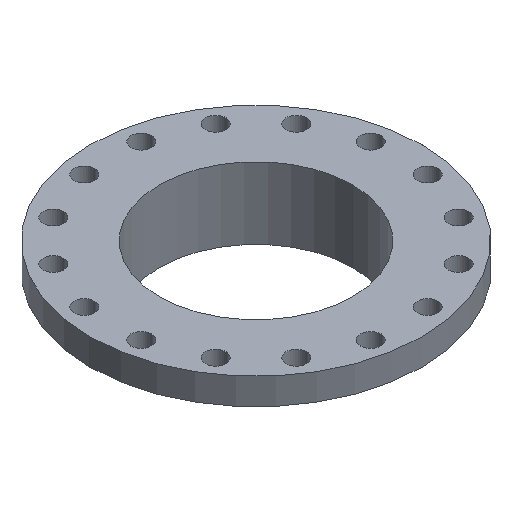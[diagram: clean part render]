
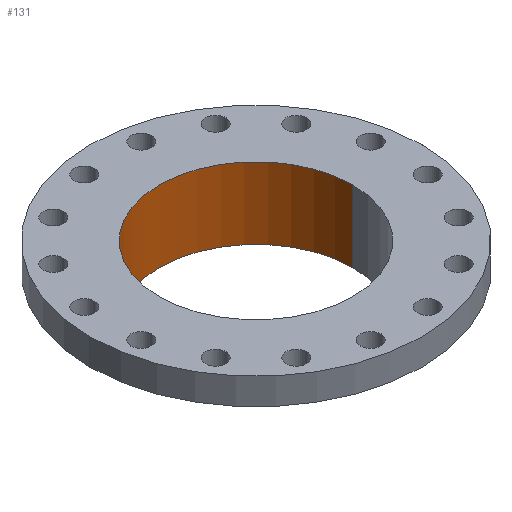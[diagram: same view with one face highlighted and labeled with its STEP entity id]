
A CAD part, isometric view. The second image highlights one B-rep face of the part: STEP entity #131.
In plain terms, the highlighted cylindrical face has radius 169 mm (diameter 338 mm), a partial arc.
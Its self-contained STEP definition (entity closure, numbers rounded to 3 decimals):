
#27 = CIRCLE ( 'NONE', #1195, 169. ) ;
#28 = EDGE_CURVE ( 'NONE', #1228, #1206, #1103, .T. ) ;
#53 = VECTOR ( 'NONE', #895, 1000. ) ;
#81 = VERTEX_POINT ( 'NONE', #1031 ) ;
#118 = EDGE_CURVE ( 'NONE', #1228, #1222, #27, .T. ) ;
#131 = ADVANCED_FACE ( 'NONE', ( #954 ), #953, .F. ) ;
#135 = CIRCLE ( 'NONE', #869, 169. ) ;
#180 = VECTOR ( 'NONE', #1100, 1000. ) ;
#201 = EDGE_CURVE ( 'NONE', #1222, #81, #903, .T. ) ;
#351 = CARTESIAN_POINT ( 'NONE',  ( -169., 0., 0. ) ) ;
#356 = CARTESIAN_POINT ( 'NONE',  ( 169., 0., 0. ) ) ;
#374 = CARTESIAN_POINT ( 'NONE',  ( -169., 0., -125. ) ) ;
#600 = EDGE_CURVE ( 'NONE', #1206, #81, #135, .T. ) ;
#660 = DIRECTION ( 'NONE',  ( -1., 0., 0. ) ) ;
#661 = DIRECTION ( 'NONE',  ( 0., 0., -1. ) ) ;
#662 = CARTESIAN_POINT ( 'NONE',  ( 0., 0., -125. ) ) ;
#869 = AXIS2_PLACEMENT_3D ( 'NONE', #662, #661, #660 ) ;
#895 = DIRECTION ( 'NONE',  ( 0., 0., -1. ) ) ;
#896 = CARTESIAN_POINT ( 'NONE',  ( 169., 0., -135. ) ) ;
#903 = LINE ( 'NONE', #896, #53 ) ;
#950 = DIRECTION ( 'NONE',  ( -1., 0., 0. ) ) ;
#951 = DIRECTION ( 'NONE',  ( 0., 0., -1. ) ) ;
#952 = CARTESIAN_POINT ( 'NONE',  ( 0., 0., -135. ) ) ;
#953 = CYLINDRICAL_SURFACE ( 'NONE', #1238, 169. ) ;
#954 = FACE_OUTER_BOUND ( 'NONE', #1608, .T. ) ;
#973 = DIRECTION ( 'NONE',  ( -1., 0., 0. ) ) ;
#974 = DIRECTION ( 'NONE',  ( 0., 0., -1. ) ) ;
#975 = CARTESIAN_POINT ( 'NONE',  ( 0., 0., 0. ) ) ;
#1031 = CARTESIAN_POINT ( 'NONE',  ( 169., 0., -125. ) ) ;
#1100 = DIRECTION ( 'NONE',  ( 0., 0., -1. ) ) ;
#1102 = CARTESIAN_POINT ( 'NONE',  ( -169., 0., -135. ) ) ;
#1103 = LINE ( 'NONE', #1102, #180 ) ;
#1195 = AXIS2_PLACEMENT_3D ( 'NONE', #975, #974, #973 ) ;
#1206 = VERTEX_POINT ( 'NONE', #374 ) ;
#1222 = VERTEX_POINT ( 'NONE', #356 ) ;
#1228 = VERTEX_POINT ( 'NONE', #351 ) ;
#1238 = AXIS2_PLACEMENT_3D ( 'NONE', #952, #951, #950 ) ;
#1455 = ORIENTED_EDGE ( 'NONE', *, *, #201, .F. ) ;
#1456 = ORIENTED_EDGE ( 'NONE', *, *, #118, .F. ) ;
#1459 = ORIENTED_EDGE ( 'NONE', *, *, #28, .T. ) ;
#1460 = ORIENTED_EDGE ( 'NONE', *, *, #600, .T. ) ;
#1608 = EDGE_LOOP ( 'NONE', ( #1455, #1456, #1459, #1460 ) ) ;
